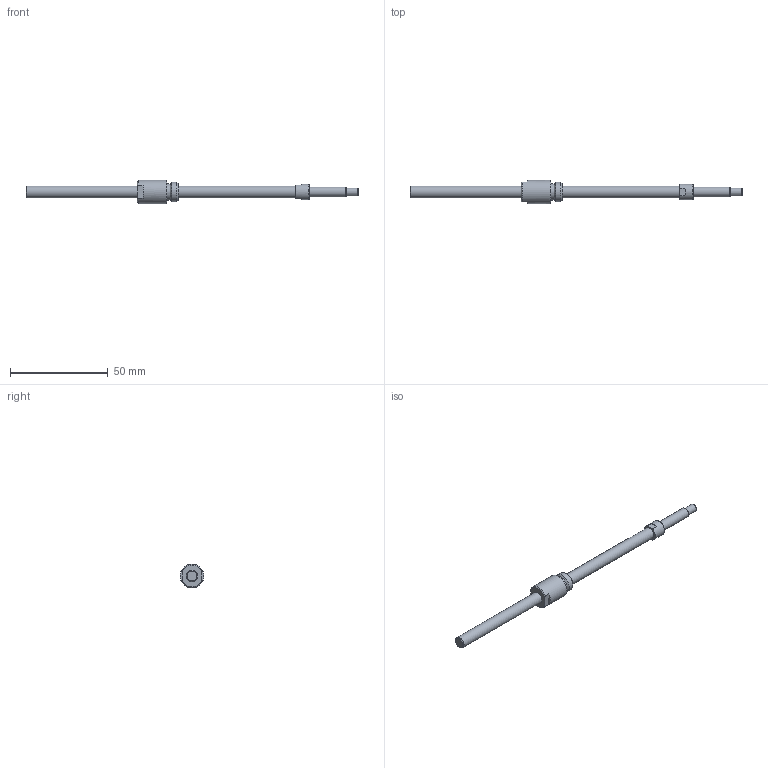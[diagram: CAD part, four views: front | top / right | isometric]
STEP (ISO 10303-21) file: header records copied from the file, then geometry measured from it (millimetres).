
FILE_DESCRIPTION(/* description */ ('STEP AP214'),/* implementation_level */ '2;1');
FILE_NAME(/* name */ 'NSG0602-135R170C5A0X(57)',/* time_stamp */ '2026-08-20T15:46:45+02:00',/* author */ ('License CC BY-ND 4.0'),/* organization */ ('CADENAS'),/* preprocessor_version */ 'ST-DEVELOPER v20',/* originating_system */ 'PARTsolutions',/* authorisation */ ' ');
FILE_SCHEMA (('AUTOMOTIVE_DESIGN {1 0 10303 214 3 1 1}'));
Length unit declared in the file: millimetre
Products named in the file (3): NSG0602-135R170C5A0X(57); NSG0602-135R170C3A_shaft; NSG0602_nut
Assembly tree (2 placements, depth 2):
  NSG0602-135R170C5A0X(57)
    NSG0602-135R170C3A_shaft
    NSG0602_nut
Bounding box: 170 x 12 x 12 mm (x, y, z)
Volume: 6174.8 mm3; surface area: 4547.8 mm2
Topology: 2 solids, 2 shells, 34 faces, 69 edges, 43 vertices
Faces by surface type: plane 16, cone 9, cylinder 8, torus 1
Full cylindrical faces by diameter (mm): 4 x1, 5 x1, 6 x2, 8 x1, 8.4 x1, 10 x1, 12 x1
Entity records: 877 total; most frequent: DIRECTION 152, CARTESIAN_POINT 141, ORIENTED_EDGE 102, AXIS2_PLACEMENT_3D 68, EDGE_LOOP 56, FACE_BOUND 56, EDGE_CURVE 51, VERTEX_POINT 41
